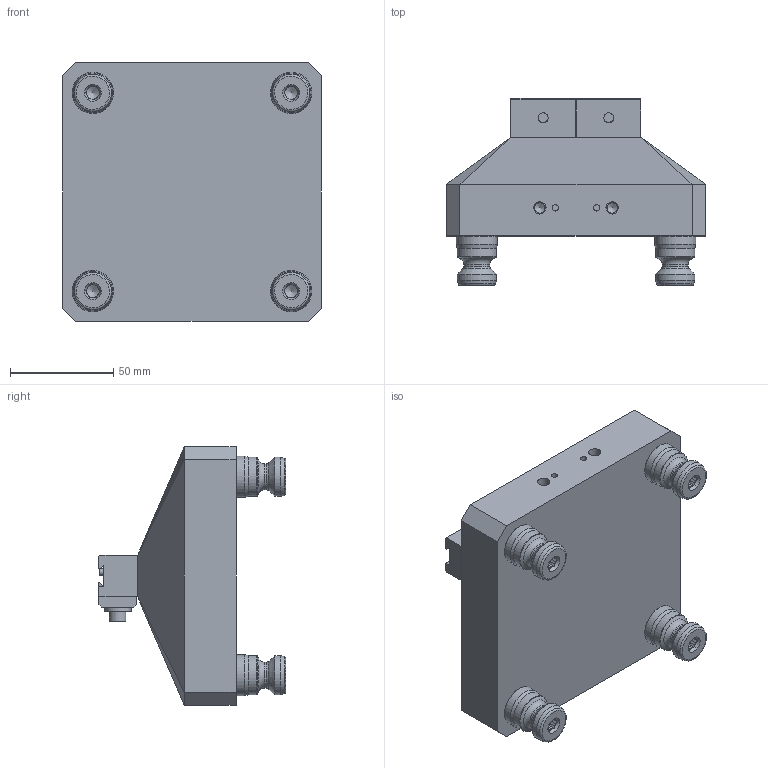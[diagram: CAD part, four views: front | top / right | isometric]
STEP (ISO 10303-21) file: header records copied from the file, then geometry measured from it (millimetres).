
FILE_DESCRIPTION (( 'STEP AP214' ), '1' );
FILE_NAME ('A96-2D05125_WEBSITE.step', '2025-08-14T15:45:36', ( '' ), ( '' ), 'SwSTEP 2.0', 'SolidWorks 2024', '' );
FILE_SCHEMA (( 'AUTOMOTIVE_DESIGN' ));
Length unit declared in the file: inch
Products named in the file (14): A96-D05125-1_WEBSITE; D_39874.CPSS_WEBSITE_91390A162; A96-2D05125_WEBSITE; D_HW.0203X0500.FW_WEBSITE_DEFAULT; D_HW.73044_WEBSITE_HW.73044; D_D05125_WEBSITE; D_D05125-1_WEBSITE_D051251WM-1; D_HW.0125X0375.DP_WEBSITE_DEFAULT; D_HW.0236X0256.CS_WEBSITE; D_PS20F-1_WEBSITE_HARD TURN; D_HW.0125X0250.DP_WEBSITE_DEFAULT; D_CLW10_WEBSITE_CLW10; D_HW.73040_WEBSITE_HW.73040; D_PS20F_WEBSITE
Assembly tree (19 placements, depth 3):
  A96-2D05125_WEBSITE
    A96-D05125-1_WEBSITE
    D_PS20F_WEBSITE  x4
      D_PS20F-1_WEBSITE_HARD TURN
      D_39874.CPSS_WEBSITE_91390A162
    D_D05125_WEBSITE  x2
      D_D05125-1_WEBSITE_D051251WM-1
      D_CLW10_WEBSITE_CLW10
      D_HW.0203X0500.FW_WEBSITE_DEFAULT
      D_HW.0125X0375.DP_WEBSITE_DEFAULT
      D_HW.0125X0250.DP_WEBSITE_DEFAULT
      D_HW.0236X0256.CS_WEBSITE
      D_HW.73044_WEBSITE_HW.73044
      D_HW.73040_WEBSITE_HW.73040
Bounding box: 125 x 90.68 x 125 mm (x, y, z)
Volume: 597787.1 mm3; surface area: 81113 mm2
Topology: 29 solids, 29 shells, 540 faces, 1184 edges, 734 vertices
Faces by surface type: plane 286, cylinder 112, cone 108, torus 32, bspline 2
Full cylindrical faces by diameter (mm): 3.03 x2, 3.175 x12, 3.205 x6, 4.039 x6, 4.826 x8, 4.978 x4, 5 x2, 5.159 x2, 5.182 x2, 6 x2, 6.147 x4, 6.35 x2, 7.925 x6, 8.5 x8, 8.509 x4, 10 x12, 12.497 x4, 12.7 x2, 15.992 x4, 16.02 x4, 19.012 x8, 19.972 x4
Entity records: 7538 total; most frequent: CARTESIAN_POINT 1622, DIRECTION 1038, ORIENTED_EDGE 762, AXIS2_PLACEMENT_3D 424, EDGE_CURVE 381, EDGE_LOOP 376, FACE_OUTER_BOUND 305, VERTEX_POINT 287
